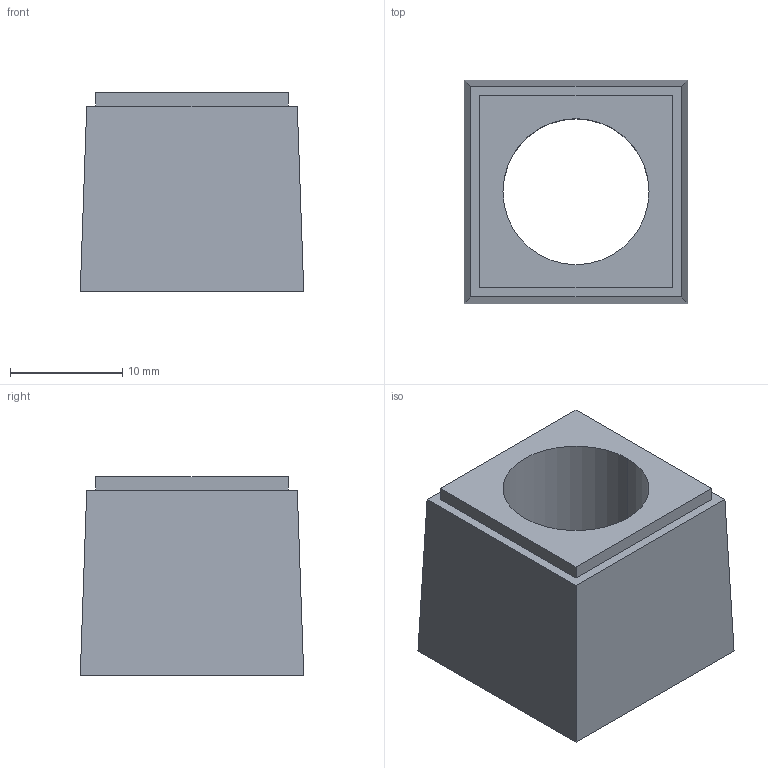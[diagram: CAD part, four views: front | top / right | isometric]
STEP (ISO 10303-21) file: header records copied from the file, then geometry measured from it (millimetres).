
FILE_DESCRIPTION (( 'STEP AP203' ), '1' );
FILE_NAME ('ccfgs13.STEP', '2022-12-08T15:38:28', ( '' ), ( '' ), 'SwSTEP 2.0', 'SolidWorks 2020', '' );
FILE_SCHEMA (( 'CONFIG_CONTROL_DESIGN' ));
Length unit declared in the file: millimetre
Products named in the file (2): 89222561; ccfgs13
Assembly tree (1 placements, depth 2):
  ccfgs13
    89222561
Bounding box: 19.9 x 19.9 x 17.7 mm (x, y, z)
Volume: 4164.6 mm3; surface area: 2563.1 mm2
Topology: 1 solids, 1 shells, 13 faces, 30 edges, 20 vertices
Faces by surface type: plane 11, cylinder 2
Entity records: 568 total; most frequent: DIRECTION 68, CARTESIAN_POINT 67, ORIENTED_EDGE 60, EDGE_CURVE 30, LINE 26, VECTOR 26, AXIS2_PLACEMENT_3D 21, VERTEX_POINT 20
